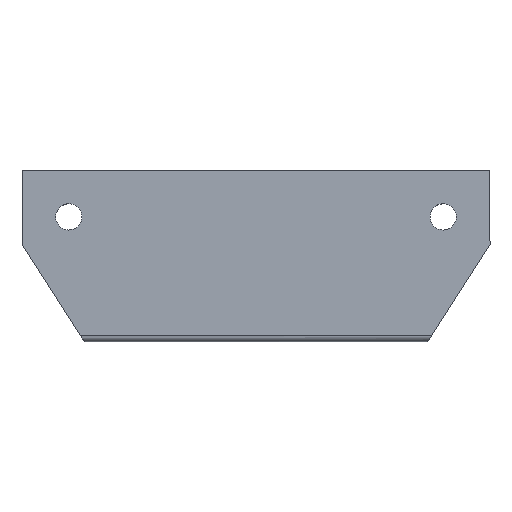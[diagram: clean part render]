
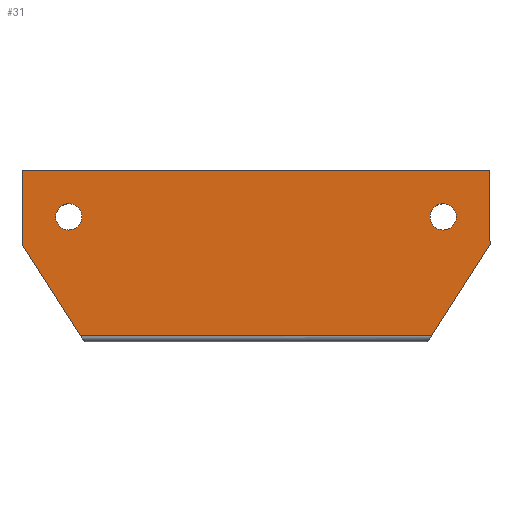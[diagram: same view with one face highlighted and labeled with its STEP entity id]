
A CAD part, top view. The second image highlights one B-rep face of the part: STEP entity #31.
In plain terms, the highlighted planar face has unit normal (0, 0, 1).
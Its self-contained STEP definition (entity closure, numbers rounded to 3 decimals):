
#18=FACE_BOUND('',#85,.T.);
#19=FACE_BOUND('',#86,.T.);
#31=ADVANCED_FACE('',(#56,#18,#19),#444,.T.);
#56=FACE_OUTER_BOUND('',#84,.T.);
#84=EDGE_LOOP('',(#146,#147,#148,#149,#150,#151));
#85=EDGE_LOOP('',(#152,#153));
#86=EDGE_LOOP('',(#154,#155));
#146=ORIENTED_EDGE('',*,*,#267,.T.);
#147=ORIENTED_EDGE('',*,*,#257,.F.);
#148=ORIENTED_EDGE('',*,*,#253,.F.);
#149=ORIENTED_EDGE('',*,*,#256,.T.);
#150=ORIENTED_EDGE('',*,*,#262,.T.);
#151=ORIENTED_EDGE('',*,*,#271,.F.);
#152=ORIENTED_EDGE('',*,*,#307,.F.);
#153=ORIENTED_EDGE('',*,*,#291,.F.);
#154=ORIENTED_EDGE('',*,*,#310,.F.);
#155=ORIENTED_EDGE('',*,*,#294,.F.);
#253=EDGE_CURVE('',#387,#388,#353,.T.);
#256=EDGE_CURVE('',#387,#391,#356,.T.);
#257=EDGE_CURVE('',#388,#393,#357,.T.);
#262=EDGE_CURVE('',#391,#396,#362,.T.);
#267=EDGE_CURVE('',#397,#393,#367,.T.);
#271=EDGE_CURVE('',#397,#396,#371,.T.);
#291=EDGE_CURVE('',#410,#421,#323,.T.);
#294=EDGE_CURVE('',#412,#423,#326,.T.);
#307=EDGE_CURVE('',#421,#410,#339,.T.);
#310=EDGE_CURVE('',#423,#412,#342,.T.);
#323=(
BOUNDED_CURVE()
B_SPLINE_CURVE(2,(#902,#903,#904,#905,#906),.UNSPECIFIED.,.F.,.F.)
B_SPLINE_CURVE_WITH_KNOTS((3,2,3),(0.,3.299,6.597),
 .UNSPECIFIED.)
CURVE()
GEOMETRIC_REPRESENTATION_ITEM()
RATIONAL_B_SPLINE_CURVE((1.,0.707,1.,0.707,1.))
REPRESENTATION_ITEM('')
);
#326=(
BOUNDED_CURVE()
B_SPLINE_CURVE(2,(#914,#915,#916,#917,#918),.UNSPECIFIED.,.F.,.F.)
B_SPLINE_CURVE_WITH_KNOTS((3,2,3),(0.,3.299,6.597),
 .UNSPECIFIED.)
CURVE()
GEOMETRIC_REPRESENTATION_ITEM()
RATIONAL_B_SPLINE_CURVE((1.,0.707,1.,0.707,1.))
REPRESENTATION_ITEM('')
);
#339=(
BOUNDED_CURVE()
B_SPLINE_CURVE(2,(#962,#963,#964,#965,#966),.UNSPECIFIED.,.F.,.F.)
B_SPLINE_CURVE_WITH_KNOTS((3,2,3),(6.597,9.896,13.195),
 .UNSPECIFIED.)
CURVE()
GEOMETRIC_REPRESENTATION_ITEM()
RATIONAL_B_SPLINE_CURVE((1.,0.707,1.,0.707,1.))
REPRESENTATION_ITEM('')
);
#342=(
BOUNDED_CURVE()
B_SPLINE_CURVE(2,(#974,#975,#976,#977,#978),.UNSPECIFIED.,.F.,.F.)
B_SPLINE_CURVE_WITH_KNOTS((3,2,3),(6.597,9.896,13.195),
 .UNSPECIFIED.)
CURVE()
GEOMETRIC_REPRESENTATION_ITEM()
RATIONAL_B_SPLINE_CURVE((1.,0.707,1.,0.707,1.))
REPRESENTATION_ITEM('')
);
#353=B_SPLINE_CURVE_WITH_KNOTS('',1,(#703,#704),.UNSPECIFIED.,.F.,.F.,(2,
2),(0.,110.),.UNSPECIFIED.);
#356=B_SPLINE_CURVE_WITH_KNOTS('',1,(#709,#710),.UNSPECIFIED.,.F.,.F.,(2,
2),(4.,14.625),.UNSPECIFIED.);
#357=B_SPLINE_CURVE_WITH_KNOTS('',1,(#711,#712),.UNSPECIFIED.,.F.,.F.,(2,
2),(4.,14.625),.UNSPECIFIED.);
#362=B_SPLINE_CURVE_WITH_KNOTS('',1,(#721,#722,#723,#724),.UNSPECIFIED.,
 .F.,.F.,(2,1,1,2),(13.98,15.878,19.269,
31.32),.UNSPECIFIED.);
#367=B_SPLINE_CURVE_WITH_KNOTS('',1,(#737,#738,#739,#740),.UNSPECIFIED.,
 .F.,.F.,(2,1,1,2),(33.696,45.747,49.138,51.036),
 .UNSPECIFIED.);
#371=B_SPLINE_CURVE_WITH_KNOTS('',1,(#783,#784),.UNSPECIFIED.,.F.,.F.,(2,
2),(-0.641,55.641),.UNSPECIFIED.);
#387=VERTEX_POINT('',#648);
#388=VERTEX_POINT('',#649);
#391=VERTEX_POINT('',#652);
#393=VERTEX_POINT('',#654);
#396=VERTEX_POINT('',#657);
#397=VERTEX_POINT('',#658);
#410=VERTEX_POINT('',#671);
#412=VERTEX_POINT('',#673);
#421=VERTEX_POINT('',#682);
#423=VERTEX_POINT('',#684);
#444=PLANE('',#476);
#476=AXIS2_PLACEMENT_3D('',#506,#491,$);
#491=DIRECTION('',(0.,0.,1.));
#506=CARTESIAN_POINT('',(-37.5,0.,-4.6));
#648=CARTESIAN_POINT('',(-37.5,0.,-4.6));
#649=CARTESIAN_POINT('',(37.5,0.,-4.6));
#652=CARTESIAN_POINT('',(-37.5,-11.902,-4.6));
#654=CARTESIAN_POINT('',(37.5,-11.902,-4.6));
#657=CARTESIAN_POINT('',(-28.141,-26.5,-4.6));
#658=CARTESIAN_POINT('',(28.141,-26.5,-4.6));
#671=CARTESIAN_POINT('',(-30.,-9.6,-4.6));
#673=CARTESIAN_POINT('',(30.,-9.6,-4.6));
#682=CARTESIAN_POINT('',(-30.,-5.4,-4.6));
#684=CARTESIAN_POINT('',(30.,-5.4,-4.6));
#703=CARTESIAN_POINT('',(-37.5,0.,-4.6));
#704=CARTESIAN_POINT('',(37.5,0.,-4.6));
#709=CARTESIAN_POINT('',(-37.5,0.,-4.6));
#710=CARTESIAN_POINT('',(-37.5,-11.902,-4.6));
#711=CARTESIAN_POINT('',(37.5,0.,-4.6));
#712=CARTESIAN_POINT('',(37.5,-11.902,-4.6));
#721=CARTESIAN_POINT('',(-37.5,-11.902,-4.6));
#722=CARTESIAN_POINT('',(-36.476,-13.5,-4.6));
#723=CARTESIAN_POINT('',(-34.646,-16.354,-4.6));
#724=CARTESIAN_POINT('',(-28.141,-26.5,-4.6));
#737=CARTESIAN_POINT('',(28.141,-26.5,-4.6));
#738=CARTESIAN_POINT('',(34.646,-16.354,-4.6));
#739=CARTESIAN_POINT('',(36.476,-13.5,-4.6));
#740=CARTESIAN_POINT('',(37.5,-11.902,-4.6));
#783=CARTESIAN_POINT('',(28.141,-26.5,-4.6));
#784=CARTESIAN_POINT('',(-28.141,-26.5,-4.6));
#902=CARTESIAN_POINT('',(-30.,-9.6,-4.6));
#903=CARTESIAN_POINT('',(-27.9,-9.6,-4.6));
#904=CARTESIAN_POINT('',(-27.9,-7.5,-4.6));
#905=CARTESIAN_POINT('',(-27.9,-5.4,-4.6));
#906=CARTESIAN_POINT('',(-30.,-5.4,-4.6));
#914=CARTESIAN_POINT('',(30.,-9.6,-4.6));
#915=CARTESIAN_POINT('',(32.1,-9.6,-4.6));
#916=CARTESIAN_POINT('',(32.1,-7.5,-4.6));
#917=CARTESIAN_POINT('',(32.1,-5.4,-4.6));
#918=CARTESIAN_POINT('',(30.,-5.4,-4.6));
#962=CARTESIAN_POINT('',(-30.,-5.4,-4.6));
#963=CARTESIAN_POINT('',(-32.1,-5.4,-4.6));
#964=CARTESIAN_POINT('',(-32.1,-7.5,-4.6));
#965=CARTESIAN_POINT('',(-32.1,-9.6,-4.6));
#966=CARTESIAN_POINT('',(-30.,-9.6,-4.6));
#974=CARTESIAN_POINT('',(30.,-5.4,-4.6));
#975=CARTESIAN_POINT('',(27.9,-5.4,-4.6));
#976=CARTESIAN_POINT('',(27.9,-7.5,-4.6));
#977=CARTESIAN_POINT('',(27.9,-9.6,-4.6));
#978=CARTESIAN_POINT('',(30.,-9.6,-4.6));
